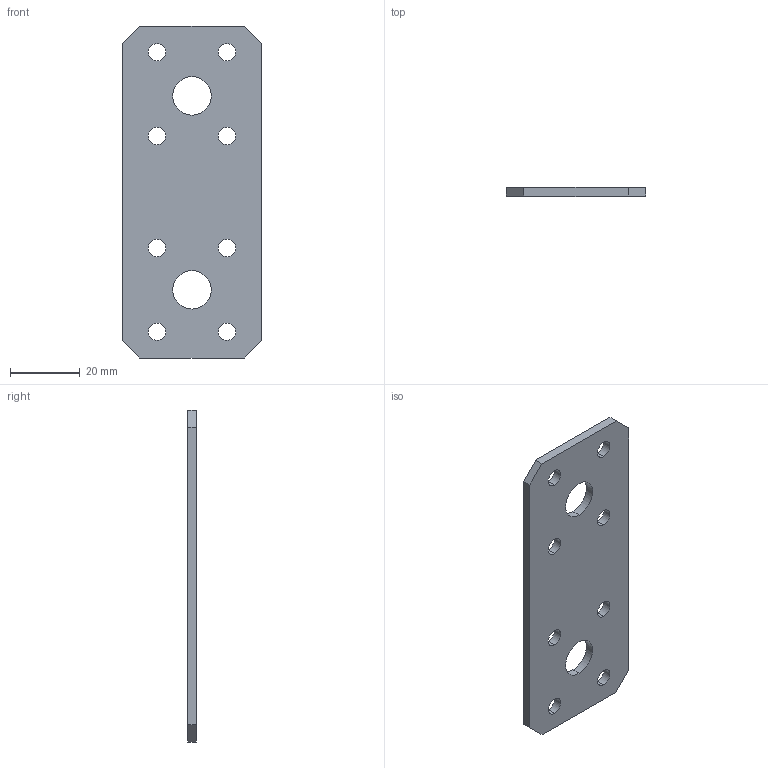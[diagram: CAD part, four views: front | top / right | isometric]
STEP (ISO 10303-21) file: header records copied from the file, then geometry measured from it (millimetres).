
FILE_DESCRIPTION (( 'STEP AP203' ), '1' );
FILE_NAME ('104.STEP', '2019-12-09T15:21:25', ( '' ), ( '' ), 'SwSTEP 2.0', 'SolidWorks 2013', '' );
FILE_SCHEMA (( 'CONFIG_CONTROL_DESIGN' ));
Length unit declared in the file: millimetre
Products named in the file (1): 104
Bounding box: 40 x 2.5 x 95 mm (x, y, z)
Volume: 8507.1 mm3; surface area: 7938.4 mm2
Topology: 1 solids, 1 shells, 30 faces, 84 edges, 56 vertices
Faces by surface type: cylinder 20, plane 10
Entity records: 1105 total; most frequent: DIRECTION 186, CARTESIAN_POINT 171, ORIENTED_EDGE 168, EDGE_CURVE 84, AXIS2_PLACEMENT_3D 71, VERTEX_POINT 56, EDGE_LOOP 50, VECTOR 44
